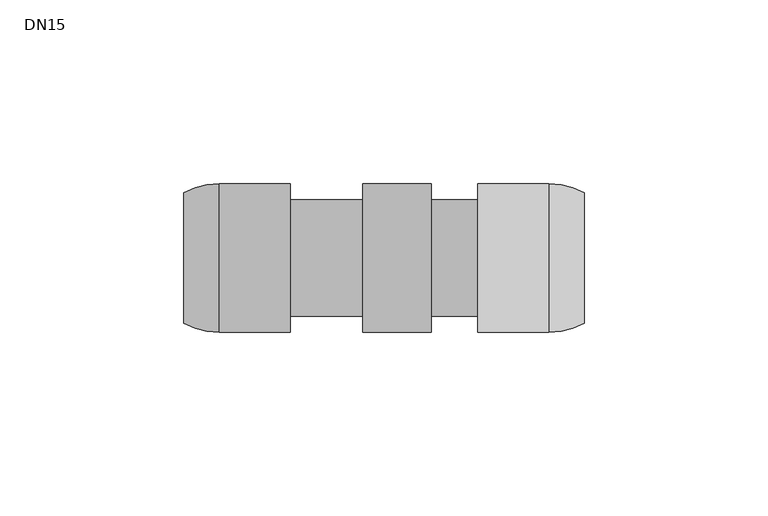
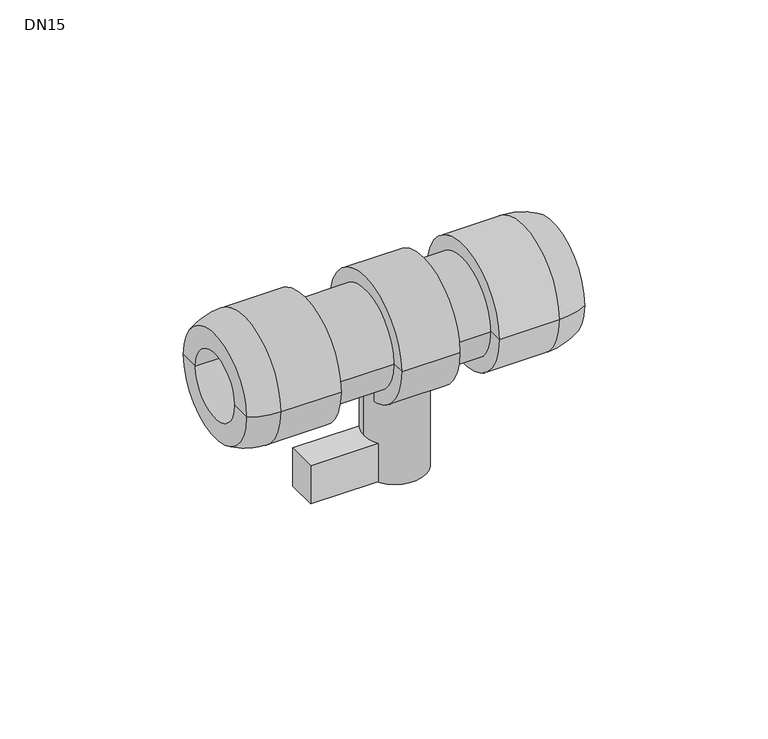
"""IFC4 building model written with IfcOpenShell, lengths in millimetres: valve geometry, Wavin_PipeAccessory_Hep2oBallValveBrass : DN15."""

from ifc_helpers import new_model, si_unit, point, frame, frame_2d, origin, place, context, project, spatial, polyline, circle_curve, ellipse_curve, trimmed, segment, composite_curve, outline, extrude, source, transform, mapped, element, save
from ifc_brep_helpers import plane_surface, cylinder_surface, revolved_surface, advanced_brep


def dn15_9c668e0e(model_context):
    return source(origin(), model_context, "Body", "SolidModel", [
        advanced_brep(
        [(22.0, 11.0, 0.0), (22.0, -11.0, 0.0), (51.0, -11.0, 0.0), (51.0, 11.0, 0.0), (22.0, 20.2, 0.0), (22.0, -20.2, 0.0), (41.3333333, 20.2, 0.0), (41.3333333, -20.2, 0.0), (51.0, 17.7368418, 0.0), (51.0, -17.7368418, 0.0)],
        [
            (0, 1, circle_curve(frame((22.0, 0.0, 0.0), z_axis=(-1.0, 0.0, 0.0), x_axis=(0.0, -1.0000000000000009, 0.0)), 11.0)),
            (1, 2),
            (2, 3, circle_curve(frame((51.0, 0.0, 0.0), z_axis=(1.0, 0.0, 0.0), x_axis=(0.0, -1.0000000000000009, 0.0)), 11.0)),
            (3, 0),
            (1, 0, circle_curve(frame((22.0, 0.0, 0.0), z_axis=(-1.0, 0.0, 0.0), x_axis=(0.0, -1.0000000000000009, 0.0)), 11.0)),
            (3, 2, circle_curve(frame((51.0, 0.0, 0.0), z_axis=(1.0, 0.0, 0.0), x_axis=(0.0, -1.0000000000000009, 0.0)), 11.0)),
            (4, 5, circle_curve(frame((22.0, 0.0, 0.0), z_axis=(-1.0, 0.0, 0.0), x_axis=(0.0, -1.0000000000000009, 0.0)), 20.2)),
            (5, 1),
            (0, 4),
            (5, 4, circle_curve(frame((22.0, 0.0, 0.0), z_axis=(-1.0, 0.0, 0.0), x_axis=(0.0, -1.0000000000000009, 0.0)), 20.2)),
            (6, 7, circle_curve(frame((41.3333333, 0.0, 0.0), z_axis=(-1.0, 0.0, 0.0), x_axis=(0.0, -1.0000000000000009, 0.0)), 20.2)),
            (7, 5),
            (4, 6),
            (7, 6, circle_curve(frame((41.3333333, 0.0, 0.0), z_axis=(-1.0, 0.0, 0.0), x_axis=(0.0, -1.0000000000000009, 0.0)), 20.2)),
            (8, 9, circle_curve(frame((51.0, 0.0, 0.0), z_axis=(-1.0, 0.0, 0.0), x_axis=(0.0, -1.0000000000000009, 0.0)), 17.7368418)),
            (9, 7, circle_curve(frame((41.3333333, 0.0, 0.0), z_axis=(0.0, 0.0, -1.0000000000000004), x_axis=(-1.0000000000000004, 0.0, 0.0)), 20.2)),
            (6, 8, circle_curve(frame((41.3333333, 0.0, 0.0), z_axis=(0.0, 0.0, -1.0000000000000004), x_axis=(-1.0000000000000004, 0.0, 0.0)), 20.2)),
            (9, 8, circle_curve(frame((51.0, 0.0, 0.0), z_axis=(-1.0, 0.0, 0.0), x_axis=(0.0, -1.0000000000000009, 0.0)), 17.7368418)),
            (2, 9),
            (8, 3),
        ],
        [
            revolved_surface(polyline([(51.00000000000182, -11.00000000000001, 0.0), (22.00000000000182, -11.00000000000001, 0.0)]), (-1978.0, 0.0, 0.0), (1.0000000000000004, 0.0, 0.0)),
            plane_surface(frame((22.0, 0.0, 0.0), z_axis=(-1.0, 0.0, 0.0), x_axis=(0.0, -1.0, 0.0))),
            cylinder_surface(frame((-1978.0, 0.0, 0.0), z_axis=(1.0000000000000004, 0.0, 0.0), x_axis=(0.0, -1.0000000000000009, 0.0)), 20.2),
            revolved_surface(trimmed(ellipse_curve(frame((41.3333333, 0.0, 0.0), z_axis=(0.0, 0.0, 1.0000000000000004), x_axis=(-1.0000000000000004, 0.0, 0.0)), 20.2, 20.2), [point((41.3333333, -20.2, 0.0))], [point((51.0, -17.7368418, 0.0))], True, "CARTESIAN"), (-1978.0, 0.0, 0.0), (1.0000000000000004, 0.0, 0.0)),
            plane_surface(frame((51.0, 0.0, 0.0), z_axis=(1.0, 0.0, 0.0), x_axis=(0.0, -1.0, 0.0))),
        ],
        [
            (0, [[1, 2, 3, 4]]),
            (0, [[5, -4, 6, -2]]),
            (1, [[7, 8, -1, 9]]),
            (1, [[10, -9, -5, -8]]),
            (2, [[11, 12, -7, 13]]),
            (2, [[14, -13, -10, -12]]),
            (3, [[15, 16, -11, 17]]),
            (3, [[18, -17, -14, -16]]),
            (4, [[-3, 19, -15, 20]]),
            (4, [[-6, -20, -18, -19]]),
        ],
    ),
        advanced_brep(
        [(-29.0, -11.0, 0.0), (-29.0, 11.0, 0.0), (-58.0, 11.0, 0.0), (-58.0, -11.0, 0.0), (-29.0, -20.2, 0.0), (-29.0, 20.2, 0.0), (-48.3333333, -20.2, 0.0), (-48.3333333, 20.2, 0.0), (-58.0, -17.7368418, 0.0), (-58.0, 17.7368418, 0.0)],
        [
            (0, 1, circle_curve(frame((-29.0, 0.0, 0.0), z_axis=(1.0, 0.0, 0.0), x_axis=(0.0, 1.0, 0.0)), 11.0)),
            (1, 2),
            (2, 3, circle_curve(frame((-58.0, 0.0, 0.0), z_axis=(-1.0, 0.0, 0.0), x_axis=(0.0, 1.0, 0.0)), 11.0)),
            (3, 0),
            (1, 0, circle_curve(frame((-29.0, 0.0, 0.0), z_axis=(1.0, 0.0, 0.0), x_axis=(0.0, 1.0, 0.0)), 11.0)),
            (3, 2, circle_curve(frame((-58.0, 0.0, 0.0), z_axis=(-1.0, 0.0, 0.0), x_axis=(0.0, 1.0, 0.0)), 11.0)),
            (4, 5, circle_curve(frame((-29.0, 0.0, 0.0), z_axis=(1.0, 0.0, 0.0), x_axis=(0.0, 1.0, 0.0)), 20.2)),
            (5, 1),
            (0, 4),
            (5, 4, circle_curve(frame((-29.0, 0.0, 0.0), z_axis=(1.0, 0.0, 0.0), x_axis=(0.0, 1.0, 0.0)), 20.2)),
            (6, 7, circle_curve(frame((-48.3333333, 0.0, 0.0), z_axis=(1.0, 0.0, 0.0), x_axis=(0.0, 1.0, 0.0)), 20.2)),
            (7, 5),
            (4, 6),
            (7, 6, circle_curve(frame((-48.3333333, 0.0, 0.0), z_axis=(1.0, 0.0, 0.0), x_axis=(0.0, 1.0, 0.0)), 20.2)),
            (8, 9, circle_curve(frame((-58.0, 0.0, 0.0), z_axis=(1.0, 0.0, 0.0), x_axis=(0.0, 1.0, 0.0)), 17.7368418)),
            (9, 7, circle_curve(frame((-48.3333333, 0.0, 0.0), z_axis=(0.0, 0.0, -1.0), x_axis=(1.0, 0.0, 0.0)), 20.2)),
            (6, 8, circle_curve(frame((-48.3333333, 0.0, 0.0), z_axis=(0.0, 0.0, -1.0), x_axis=(1.0, 0.0, 0.0)), 20.2)),
            (9, 8, circle_curve(frame((-58.0, 0.0, 0.0), z_axis=(1.0, 0.0, 0.0), x_axis=(0.0, 1.0, 0.0)), 17.7368418)),
            (2, 9),
            (8, 3),
        ],
        [
            revolved_surface(polyline([(-58.0, 11.0, 0.0), (-29.0, 11.0, 0.0)]), (1971.0, 0.0, 0.0), (-1.0, 0.0, 0.0)),
            plane_surface(frame((-29.0, 0.0, 0.0), z_axis=(1.0, 0.0, 0.0), x_axis=(0.0, 1.0, 0.0))),
            cylinder_surface(frame((1971.0, 0.0, 0.0), z_axis=(-1.0, 0.0, 0.0), x_axis=(0.0, 1.0, 0.0)), 20.2),
            revolved_surface(trimmed(ellipse_curve(frame((-48.3333333, 0.0, 0.0), z_axis=(0.0, 0.0, 1.0), x_axis=(1.0, 0.0, 0.0)), 20.2, 20.2), [point((-48.3333333, 20.2, 0.0))], [point((-58.0, 17.7368418, 0.0))], True, "CARTESIAN"), (1971.0, 0.0, 0.0), (-1.0, 0.0, 0.0)),
            plane_surface(frame((-58.0, 0.0, 0.0), z_axis=(-1.0, 0.0, 0.0), x_axis=(0.0, 1.0, 0.0))),
        ],
        [
            (0, [[1, 2, 3, 4]]),
            (0, [[5, -4, 6, -2]]),
            (1, [[7, 8, -1, 9]]),
            (1, [[10, -9, -5, -8]]),
            (2, [[11, 12, -7, 13]]),
            (2, [[14, -13, -10, -12]]),
            (3, [[15, 16, -11, 17]]),
            (3, [[18, -17, -14, -16]]),
            (4, [[-3, 19, -15, 20]]),
            (4, [[-6, -20, -18, -19]]),
        ],
    ),
        extrude(outline(polyline([(0.0, 5.0), (0.0, -5.0), (-30.0, -5.0), (-30.0, 5.0), (0.0, 5.0)])), frame((0.0, 0.0, -47.0), z_axis=(0.0, 0.0, 1.0), x_axis=(1.0, 0.0, 0.0)), (0.0, 0.0, 1.0), 13.0),
        extrude(outline(composite_curve([segment(trimmed(circle_curve(frame_2d((0.0, -0.0148716)), 10.0), [point((-10.0, -0.0148716))], [point((10.0, -0.0148716))], False, "CARTESIAN"), True, "CONTINUOUS"), segment(trimmed(circle_curve(frame_2d((0.0, -0.0148716)), 10.0), [point((10.0, -0.0148716))], [point((-10.0, -0.0148716))], False, "CARTESIAN"), True, "CONTINUOUS")], self_intersect=False)), frame((0.0, 0.0, -47.0), z_axis=(0.0, 0.0, 1.0), x_axis=(1.0, 0.0, 0.0)), (0.0, 0.0, 1.0), 47.0),
        advanced_brep(
        [(-29.0, 0.0, 0.0), (-29.0, 15.8, 0.0), (-29.0, -15.8, 0.0), (22.0, -15.8, 0.0), (22.0, 15.8, 0.0), (22.0, 0.0, 0.0), (9.3448333, -15.8, 0.0), (9.3448333, 15.8, 0.0), (9.3448333, -20.2, 0.0), (9.3448333, 20.2, 0.0), (-9.3448333, -20.2, 0.0), (-9.3448333, 20.2, 0.0), (-9.3448333, -15.8, 0.0), (-9.3448333, 15.8, 0.0)],
        [
            (0, 1),
            (1, 2, circle_curve(frame((-29.0, 0.0, 0.0), z_axis=(-1.0, 0.0, 0.0), x_axis=(0.0, 1.0, 0.0)), 15.8)),
            (2, 0),
            (2, 1, circle_curve(frame((-29.0, 0.0, 0.0), z_axis=(-1.0, 0.0, 0.0), x_axis=(0.0, 1.0, 0.0)), 15.8)),
            (3, 4, circle_curve(frame((22.0, 0.0, 0.0), z_axis=(1.0, 0.0, 0.0), x_axis=(0.0, 1.0, 0.0)), 15.8)),
            (4, 5),
            (5, 3),
            (4, 3, circle_curve(frame((22.0, 0.0, 0.0), z_axis=(1.0, 0.0, 0.0), x_axis=(0.0, 1.0, 0.0)), 15.8)),
            (6, 7, circle_curve(frame((9.3448333, 0.0, 0.0), z_axis=(1.0, 0.0, 0.0), x_axis=(0.0, 1.0, 0.0)), 15.8)),
            (7, 4),
            (3, 6),
            (7, 6, circle_curve(frame((9.3448333, 0.0, 0.0), z_axis=(1.0, 0.0, 0.0), x_axis=(0.0, 1.0, 0.0)), 15.8)),
            (8, 9, circle_curve(frame((9.3448333, 0.0, 0.0), z_axis=(1.0, 0.0, 0.0), x_axis=(0.0, 1.0, 0.0)), 20.2)),
            (9, 7),
            (6, 8),
            (9, 8, circle_curve(frame((9.3448333, 0.0, 0.0), z_axis=(1.0, 0.0, 0.0), x_axis=(0.0, 1.0, 0.0)), 20.2)),
            (10, 11, circle_curve(frame((-9.3448333, 0.0, 0.0), z_axis=(1.0, 0.0, 0.0), x_axis=(0.0, 1.0, 0.0)), 20.2)),
            (11, 9),
            (8, 10),
            (11, 10, circle_curve(frame((-9.3448333, 0.0, 0.0), z_axis=(1.0, 0.0, 0.0), x_axis=(0.0, 1.0, 0.0)), 20.2)),
            (12, 13, circle_curve(frame((-9.3448333, 0.0, 0.0), z_axis=(1.0, 0.0, 0.0), x_axis=(0.0, 1.0, 0.0)), 15.8)),
            (13, 11),
            (10, 12),
            (13, 12, circle_curve(frame((-9.3448333, 0.0, 0.0), z_axis=(1.0, 0.0, 0.0), x_axis=(0.0, 1.0, 0.0)), 15.8)),
            (1, 13),
            (12, 2),
        ],
        [
            plane_surface(frame((-29.0, 0.0, 0.0), z_axis=(-1.0, 0.0, 0.0), x_axis=(0.0, 1.0, 0.0))),
            plane_surface(frame((22.0, 0.0, 0.0), z_axis=(1.0, 0.0, 0.0), x_axis=(0.0, 1.0, 0.0))),
            cylinder_surface(frame((-29.0, 0.0, 0.0), z_axis=(-1.0, 0.0, 0.0), x_axis=(0.0, 1.0, 0.0)), 15.8),
            plane_surface(frame((9.3448333, 0.0, 0.0), z_axis=(1.0, 0.0, 0.0), x_axis=(0.0, 1.0, 0.0))),
            cylinder_surface(frame((-29.0, 0.0, 0.0), z_axis=(-1.0, 0.0, 0.0), x_axis=(0.0, 1.0, 0.0)), 20.2),
            plane_surface(frame((-9.3448333, 0.0, 0.0), z_axis=(-1.0, 0.0, 0.0), x_axis=(0.0, 1.0, 0.0))),
        ],
        [
            (0, [[1, 2, 3]]),
            (0, [[-3, 4, -1]]),
            (1, [[5, 6, 7]]),
            (1, [[8, -7, -6]]),
            (2, [[9, 10, -5, 11]]),
            (2, [[12, -11, -8, -10]]),
            (3, [[13, 14, -9, 15]]),
            (3, [[16, -15, -12, -14]]),
            (4, [[17, 18, -13, 19]]),
            (4, [[20, -19, -16, -18]]),
            (5, [[21, 22, -17, 23]]),
            (5, [[24, -23, -20, -22]]),
            (2, [[-2, 25, -21, 26]]),
            (2, [[-4, -26, -24, -25]]),
        ],
    ),
    ])


if __name__ == "__main__":
    model = new_model("IFC4")
    model_context = context("Model", 3, world=origin())
    ifc_project = project(units=[si_unit("LENGTHUNIT", "METRE", prefix="MILLI")], contexts=[model_context])
    site = spatial("IfcSite", under=ifc_project)
    building = spatial("IfcBuilding", under=site)
    placement = place(None, origin())
    dn15_shape = dn15_9c668e0e(model_context)
    element("IfcValve", 1, ObjectType="Wavin_PipeAccessory_Hep2oBallValveBrass : DN15", at=placement, inside=building, context=model_context, shape_type="MappedRepresentation", body=[
        mapped(dn15_shape, transform((0.0, 0.0, 0.0), x_axis=(1.0, 0.0, 0.0), y_axis=(0.0, 1.0, 0.0), z_axis=(0.0, 0.0, 1.0))),
    ])
    save(model, "model.ifc")
